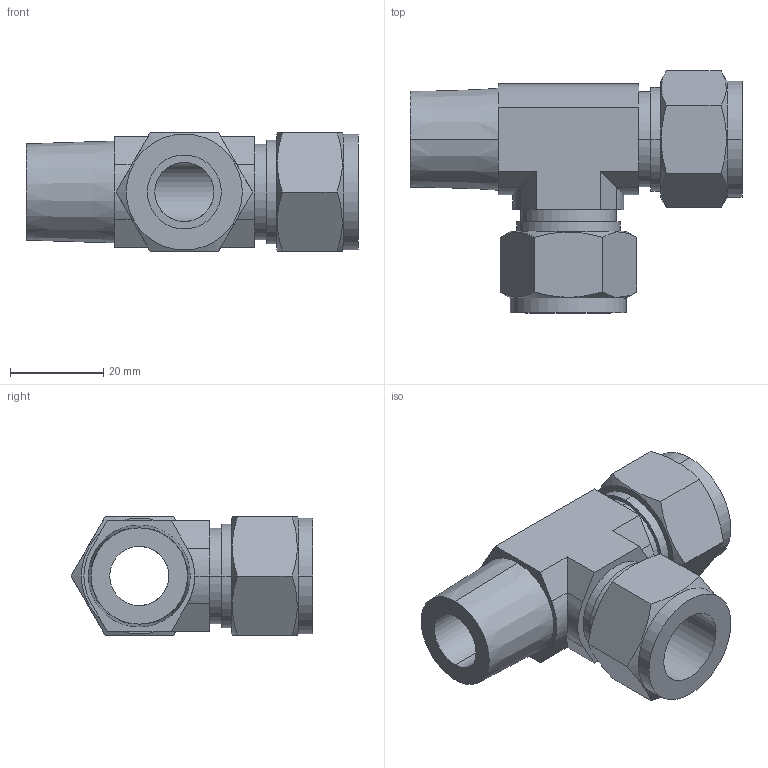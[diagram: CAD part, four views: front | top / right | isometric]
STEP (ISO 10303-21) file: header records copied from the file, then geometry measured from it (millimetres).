
FILE_DESCRIPTION (( 'STEP AP203' ), '1' );
FILE_NAME ('DTK 10-08 SS.STEP', '2009-09-08T10:03:26', ( ' ' ), ( '' ), 'SwSTEP 2.0', 'SolidWorks 2008', '' );
FILE_SCHEMA (( 'CONFIG_CONTROL_DESIGN' ));
Length unit declared in the file: millimetre
Products named in the file (1): DTK 10-08 SS
Bounding box: 71.3 x 51.96 x 25.4 mm (x, y, z)
Volume: 29129.1 mm3; surface area: 13579.3 mm2
Topology: 1 solids, 1 shells, 73 faces, 181 edges, 118 vertices
Faces by surface type: plane 36, cylinder 27, cone 10
Entity records: 2459 total; most frequent: CARTESIAN_POINT 666, ORIENTED_EDGE 362, DIRECTION 345, EDGE_CURVE 181, AXIS2_PLACEMENT_3D 129, VERTEX_POINT 118, VECTOR 87, LINE 87
